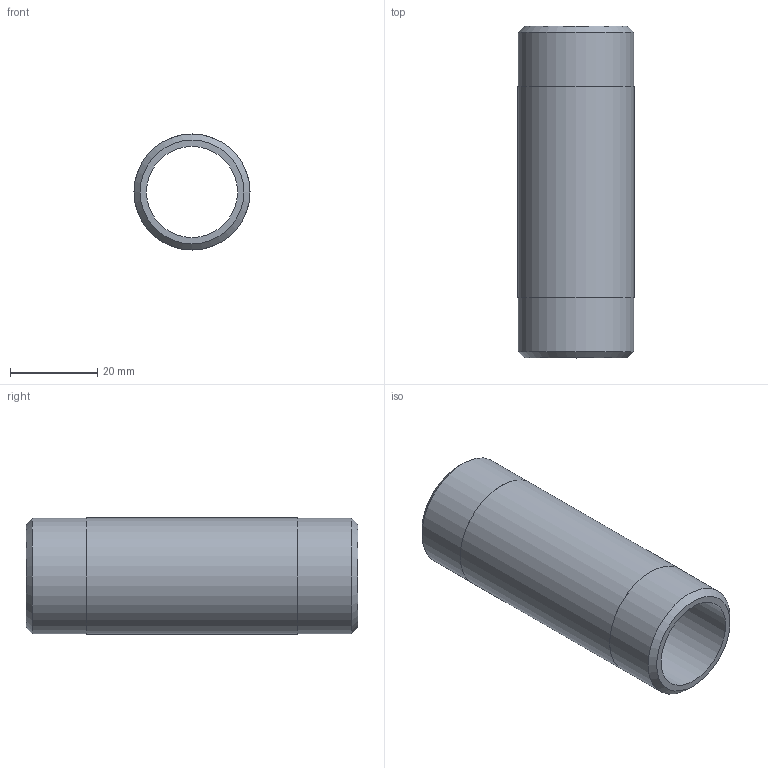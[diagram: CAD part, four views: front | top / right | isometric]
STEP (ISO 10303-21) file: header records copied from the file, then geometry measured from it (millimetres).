
FILE_DESCRIPTION(/* description */ (''),/* implementation_level */ '2;1');
FILE_NAME(/* name */ 'C:/Users/drich/Desktop/SSPN34-3 v1.step',/* time_stamp */ '2020-01-04T13:40:38-06:00',/* author */ (''),/* organization */ (''),/* preprocessor_version */ 'ST-DEVELOPER v18',/* originating_system */ 'Autodesk Translation Framework v8.12.0.6',/* authorisation */ '');
FILE_SCHEMA (('AUTOMOTIVE_DESIGN { 1 0 10303 214 3 1 1 }'));
Length unit declared in the file: inch
Products named in the file (1): SSPN34-3
Bounding box: 26.67 x 76.2 x 26.67 mm (x, y, z)
Volume: 16136.4 mm3; surface area: 11677.7 mm2
Topology: 1 solids, 1 shells, 10 faces, 24 edges, 18 vertices
Faces by surface type: cylinder 4, plane 4, cone 2
Full cylindrical faces by diameter (mm): 20.93 x1, 26.619 x2, 26.67 x1
Entity records: 353 total; most frequent: DIRECTION 64, CARTESIAN_POINT 53, ORIENTED_EDGE 48, AXIS2_PLACEMENT_3D 29, EDGE_CURVE 24, CIRCLE 18, VERTEX_POINT 18, EDGE_LOOP 14
